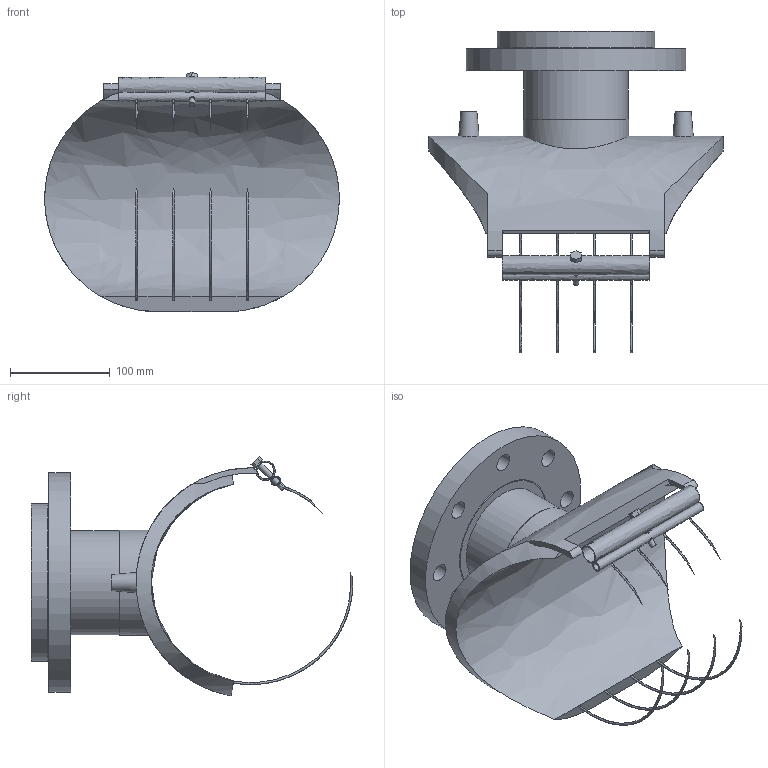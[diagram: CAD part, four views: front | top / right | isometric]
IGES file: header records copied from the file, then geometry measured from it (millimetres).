
Global section: file name: 4959X4200100T; native system: Autodesk Inventor 2019; preprocessor: unknown; author: KIM; date: 20220428.113731; units: millimetre
Bounding box: 295 x 321.98 x 239.83 mm (x, y, z)
Volume: 2194246.1 mm3; surface area: 378997 mm2
Topology: 2 solids, 2 shells, 77 faces, 235 edges, 164 vertices
Faces by surface type: bspline 77
